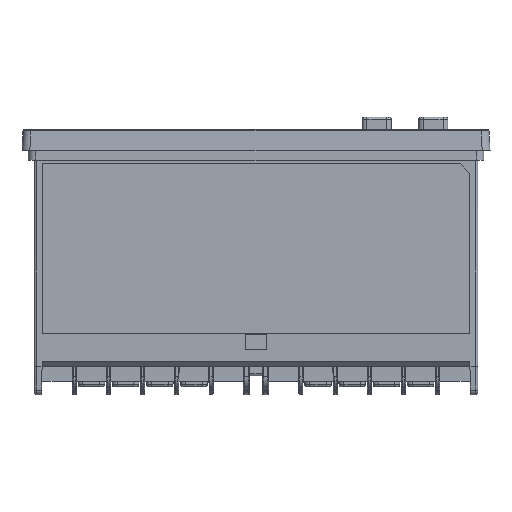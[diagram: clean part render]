
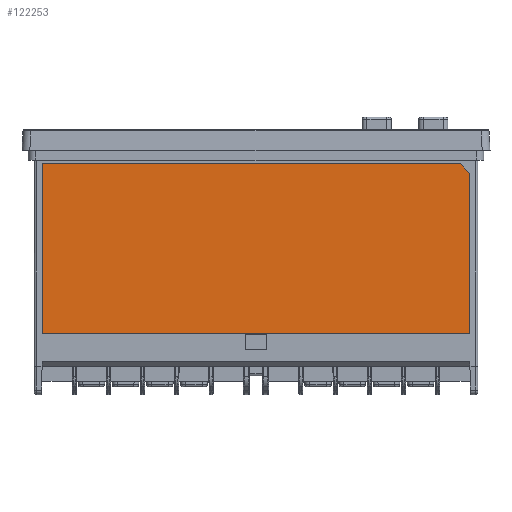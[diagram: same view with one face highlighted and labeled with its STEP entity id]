
A CAD part, left-side view. The second image highlights one B-rep face of the part: STEP entity #122253.
In plain terms, the highlighted planar face has unit normal (-1, 0, 0).
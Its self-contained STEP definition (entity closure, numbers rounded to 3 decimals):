
#71665=DIRECTION('',(0.,0.707,0.707));
#71666=VECTOR('',#71665,2.828);
#71667=CARTESIAN_POINT('',(-22.1,-43.8,-4.7));
#71668=LINE('',#71667,#71666);
#71672=DIRECTION('',(0.,0.,1.));
#71673=VECTOR('',#71672,32.8);
#71674=CARTESIAN_POINT('',(-22.1,-43.8,-37.5));
#71675=LINE('',#71674,#71673);
#71679=DIRECTION('',(0.,-1.,0.));
#71680=VECTOR('',#71679,87.6);
#71681=CARTESIAN_POINT('',(-22.1,43.8,-37.5));
#71682=LINE('',#71681,#71680);
#71686=DIRECTION('',(0.,0.,-1.));
#71687=VECTOR('',#71686,34.8);
#71688=CARTESIAN_POINT('',(-22.1,43.8,-2.7));
#71689=LINE('',#71688,#71687);
#71693=DIRECTION('',(0.,1.,0.));
#71694=VECTOR('',#71693,85.6);
#71695=CARTESIAN_POINT('',(-22.1,-41.8,-2.7));
#71696=LINE('',#71695,#71694);
#78434=CARTESIAN_POINT('',(-22.1,43.8,-2.7));
#78435=CARTESIAN_POINT('',(-22.1,43.8,-37.5));
#78436=VERTEX_POINT('',#78434);
#78437=VERTEX_POINT('',#78435);
#78438=CARTESIAN_POINT('',(-22.1,-43.8,-37.5));
#78439=VERTEX_POINT('',#78438);
#78454=CARTESIAN_POINT('',(-22.1,-43.8,-4.7));
#78455=CARTESIAN_POINT('',(-22.1,-41.8,-2.7));
#78456=VERTEX_POINT('',#78454);
#78457=VERTEX_POINT('',#78455);
#122238=CARTESIAN_POINT('',(-22.1,0.,-50.));
#122239=DIRECTION('',(-1.,0.,0.));
#122240=DIRECTION('',(0.,0.,1.));
#122241=AXIS2_PLACEMENT_3D('',#122238,#122239,#122240);
#122242=PLANE('',#122241);
#122243=ORIENTED_EDGE('',*,*,#122229,.F.);
#122244=ORIENTED_EDGE('',*,*,#122219,.F.);
#122246=ORIENTED_EDGE('',*,*,#122245,.F.);
#122248=ORIENTED_EDGE('',*,*,#122247,.F.);
#122250=ORIENTED_EDGE('',*,*,#122249,.F.);
#122251=EDGE_LOOP('',(#122243,#122244,#122246,#122248,#122250));
#122252=FACE_OUTER_BOUND('',#122251,.F.);
#122253=ADVANCED_FACE('',(#122252),#122242,.T.);
#122219=EDGE_CURVE('',#78439,#78456,#71675,.T.);
#122229=EDGE_CURVE('',#78456,#78457,#71668,.T.);
#122245=EDGE_CURVE('',#78437,#78439,#71682,.T.);
#122247=EDGE_CURVE('',#78436,#78437,#71689,.T.);
#122249=EDGE_CURVE('',#78457,#78436,#71696,.T.);
